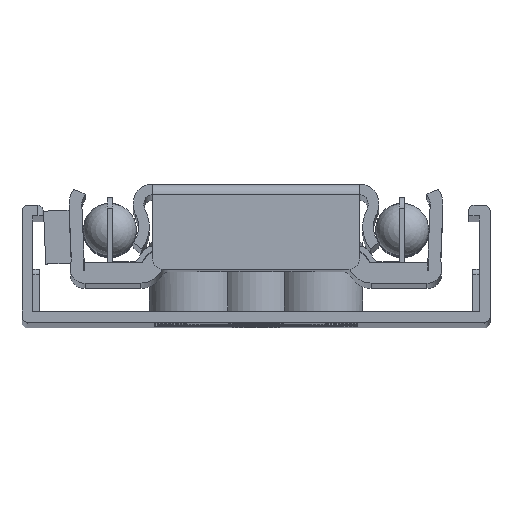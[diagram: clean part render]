
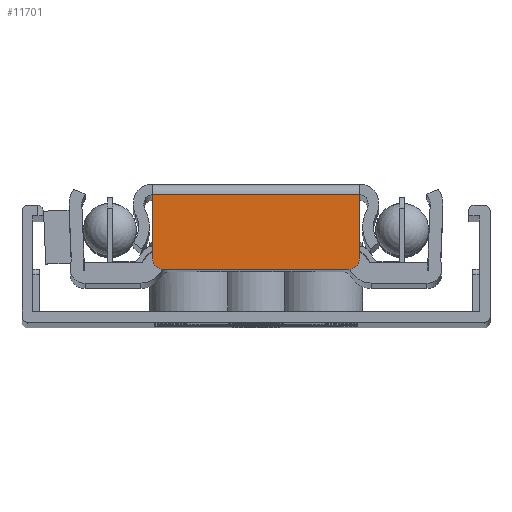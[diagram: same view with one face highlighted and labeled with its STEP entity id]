
A CAD part, top view. The second image highlights one B-rep face of the part: STEP entity #11701.
In plain terms, the highlighted planar face has unit normal (0, 0, 1).
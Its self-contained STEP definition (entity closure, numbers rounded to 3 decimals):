
#829=CIRCLE('',#12848,1.);
#830=CIRCLE('',#12849,1.);
#1534=FACE_OUTER_BOUND('',#2237,.T.);
#2237=EDGE_LOOP('',(#10634,#10635,#10636,#10637,#10638,#10639));
#3388=LINE('',#19783,#4543);
#3389=LINE('',#19786,#4544);
#3390=LINE('',#19790,#4545);
#3391=LINE('',#19793,#4546);
#4543=VECTOR('',#16153,10.);
#4544=VECTOR('',#16156,10.);
#4545=VECTOR('',#16159,10.);
#4546=VECTOR('',#16162,10.);
#5667=VERTEX_POINT('',#19779);
#5668=VERTEX_POINT('',#19781);
#5669=VERTEX_POINT('',#19785);
#5670=VERTEX_POINT('',#19787);
#5671=VERTEX_POINT('',#19789);
#5672=VERTEX_POINT('',#19791);
#7341=EDGE_CURVE('',#5668,#5667,#3388,.T.);
#7342=EDGE_CURVE('',#5668,#5669,#3389,.T.);
#7343=EDGE_CURVE('',#5670,#5669,#829,.T.);
#7344=EDGE_CURVE('',#5670,#5671,#3390,.T.);
#7345=EDGE_CURVE('',#5672,#5671,#830,.T.);
#7346=EDGE_CURVE('',#5667,#5672,#3391,.T.);
#10634=ORIENTED_EDGE('',*,*,#7341,.F.);
#10635=ORIENTED_EDGE('',*,*,#7342,.T.);
#10636=ORIENTED_EDGE('',*,*,#7343,.F.);
#10637=ORIENTED_EDGE('',*,*,#7344,.T.);
#10638=ORIENTED_EDGE('',*,*,#7345,.F.);
#10639=ORIENTED_EDGE('',*,*,#7346,.F.);
#11126=PLANE('',#12847);
#11701=ADVANCED_FACE('',(#1534),#11126,.T.);
#12847=AXIS2_PLACEMENT_3D('',#19784,#16154,#16155);
#12848=AXIS2_PLACEMENT_3D('',#19788,#16157,#16158);
#12849=AXIS2_PLACEMENT_3D('',#19792,#16160,#16161);
#16153=DIRECTION('',(-1.,0.,0.));
#16154=DIRECTION('center_axis',(0.,0.,1.));
#16155=DIRECTION('ref_axis',(1.,0.,0.));
#16156=DIRECTION('',(0.,1.,0.));
#16157=DIRECTION('center_axis',(0.,0.,-1.));
#16158=DIRECTION('ref_axis',(0.707,0.707,0.));
#16159=DIRECTION('',(-1.,0.,0.));
#16160=DIRECTION('center_axis',(0.,0.,-1.));
#16161=DIRECTION('ref_axis',(-0.707,0.707,0.));
#16162=DIRECTION('',(0.,1.,0.));
#19779=CARTESIAN_POINT('',(4.892,-4.95,299.));
#19781=CARTESIAN_POINT('',(24.354,-4.95,299.));
#19783=CARTESIAN_POINT('',(19.501,-4.95,299.));
#19784=CARTESIAN_POINT('Origin',(24.354,-5.95,299.));
#19785=CARTESIAN_POINT('',(24.354,1.05,299.));
#19786=CARTESIAN_POINT('',(24.354,-5.95,299.));
#19787=CARTESIAN_POINT('',(23.354,2.05,299.));
#19788=CARTESIAN_POINT('Origin',(23.354,1.05,299.));
#19789=CARTESIAN_POINT('',(5.892,2.05,299.));
#19790=CARTESIAN_POINT('',(24.354,2.05,299.));
#19791=CARTESIAN_POINT('',(4.892,1.05,299.));
#19792=CARTESIAN_POINT('Origin',(5.892,1.05,299.));
#19793=CARTESIAN_POINT('',(4.892,-5.95,299.));
